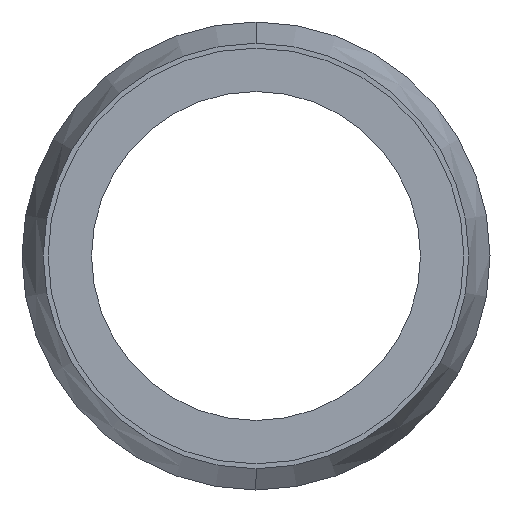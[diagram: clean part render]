
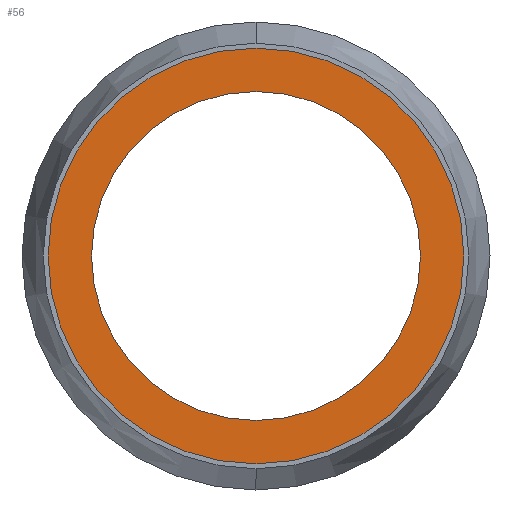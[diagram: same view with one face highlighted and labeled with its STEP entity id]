
A CAD part, left-side view. The second image highlights one B-rep face of the part: STEP entity #56.
In plain terms, the highlighted planar face has unit normal (-1, 0, 0).
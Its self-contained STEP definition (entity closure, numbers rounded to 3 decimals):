
#10 = ORIENTED_EDGE ( 'NONE', *, *, #55, .T. ) ;
#55 = EDGE_CURVE ( 'NONE', #126, #129, #653, .T. ) ;
#56 = ADVANCED_FACE ( 'NONE', ( #644, #643 ), #642, .F. ) ;
#57 = EDGE_LOOP ( 'NONE', ( #58, #60 ) ) ;
#58 = ORIENTED_EDGE ( 'NONE', *, *, #59, .T. ) ;
#59 = EDGE_CURVE ( 'NONE', #80, #79, #637, .T. ) ;
#60 = ORIENTED_EDGE ( 'NONE', *, *, #78, .T. ) ;
#61 = EDGE_LOOP ( 'NONE', ( #62, #10 ) ) ;
#62 = ORIENTED_EDGE ( 'NONE', *, *, #128, .T. ) ;
#78 = EDGE_CURVE ( 'NONE', #79, #80, #686, .T. ) ;
#79 = VERTEX_POINT ( 'NONE', #636 ) ;
#80 = VERTEX_POINT ( 'NONE', #635 ) ;
#126 = VERTEX_POINT ( 'NONE', #446 ) ;
#128 = EDGE_CURVE ( 'NONE', #129, #126, #350, .T. ) ;
#129 = VERTEX_POINT ( 'NONE', #439 ) ;
#346 = DIRECTION ( 'NONE',  ( 0., 0., 1. ) ) ;
#347 = DIRECTION ( 'NONE',  ( -1., 0., 0. ) ) ;
#348 = CARTESIAN_POINT ( 'NONE',  ( 3.62, 0., 0. ) ) ;
#349 = AXIS2_PLACEMENT_3D ( 'NONE', #348, #347, #346 ) ;
#350 = CIRCLE ( 'NONE', #349, 12.7 ) ;
#439 = CARTESIAN_POINT ( 'NONE',  ( 3.62, 0., 12.7 ) ) ;
#446 = CARTESIAN_POINT ( 'NONE',  ( 3.62, 0., -12.7 ) ) ;
#635 = CARTESIAN_POINT ( 'NONE',  ( 3.62, 0., -10.05 ) ) ;
#636 = CARTESIAN_POINT ( 'NONE',  ( 3.62, 0., 10.05 ) ) ;
#637 = CIRCLE ( 'NONE', #777, 10.05 ) ;
#638 = DIRECTION ( 'NONE',  ( 0., 0., -1. ) ) ;
#639 = DIRECTION ( 'NONE',  ( 1., 0., 0. ) ) ;
#640 = AXIS2_PLACEMENT_3D ( 'NONE', #641, #639, #638 ) ;
#641 = CARTESIAN_POINT ( 'NONE',  ( 3.62, 0., 0. ) ) ;
#642 = PLANE ( 'NONE',  #640 ) ;
#643 = FACE_OUTER_BOUND ( 'NONE', #61, .T. ) ;
#644 = FACE_BOUND ( 'NONE', #57, .T. ) ;
#645 = DIRECTION ( 'NONE',  ( 0., 0., 1. ) ) ;
#646 = DIRECTION ( 'NONE',  ( -1., 0., 0. ) ) ;
#647 = CARTESIAN_POINT ( 'NONE',  ( 3.62, 0., 0. ) ) ;
#648 = AXIS2_PLACEMENT_3D ( 'NONE', #647, #646, #645 ) ;
#653 = CIRCLE ( 'NONE', #648, 12.7 ) ;
#682 = DIRECTION ( 'NONE',  ( 0., 0., -1. ) ) ;
#683 = DIRECTION ( 'NONE',  ( 1., 0., 0. ) ) ;
#684 = CARTESIAN_POINT ( 'NONE',  ( 3.62, 0., 0. ) ) ;
#685 = AXIS2_PLACEMENT_3D ( 'NONE', #684, #683, #682 ) ;
#686 = CIRCLE ( 'NONE', #685, 10.05 ) ;
#774 = DIRECTION ( 'NONE',  ( 0., 0., -1. ) ) ;
#775 = DIRECTION ( 'NONE',  ( 1., 0., 0. ) ) ;
#776 = CARTESIAN_POINT ( 'NONE',  ( 3.62, 0., 0. ) ) ;
#777 = AXIS2_PLACEMENT_3D ( 'NONE', #776, #775, #774 ) ;
